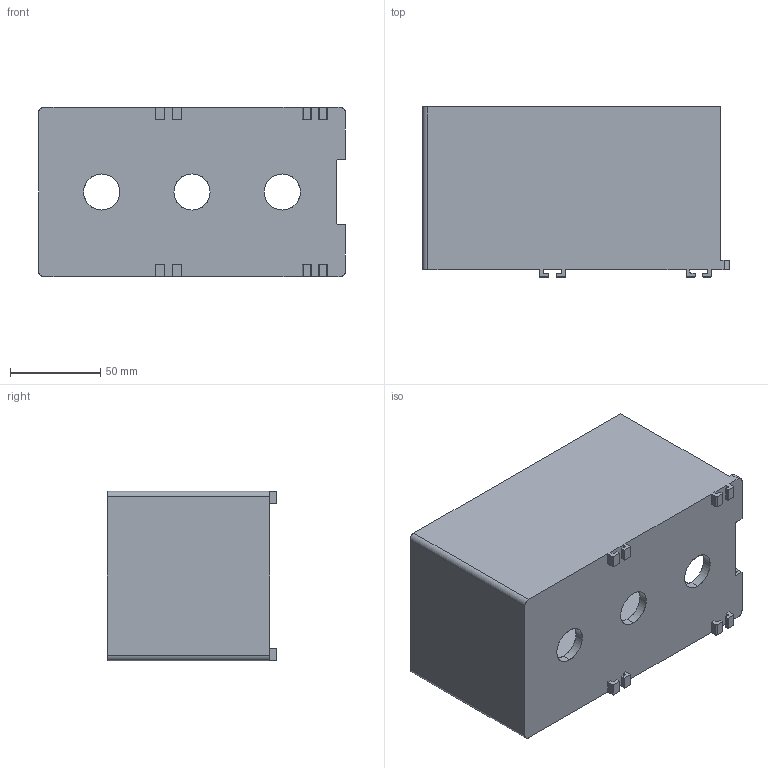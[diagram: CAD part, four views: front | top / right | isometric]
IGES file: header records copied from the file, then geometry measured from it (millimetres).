
Start section: SolidWorks IGES file using analytic representation for surfaces
Global section: file name: E:\Studium\I4.0\fts\Kleine Bauteile\box.IGS; native system: SolidWorks 2013; preprocessor: SolidWorks 2013; author: Ludwig Jiawei Luo; date: 180202.213540; units: millimetre
Bounding box: 170 x 94 x 93.8 mm (x, y, z)
Surface area: 105118.1 mm2 (no closed solid volume)
Topology: 0 solids, 0 shells, 150 faces, 1276 edges, 1276 vertices
Faces by surface type: bspline 96, revolution 54
